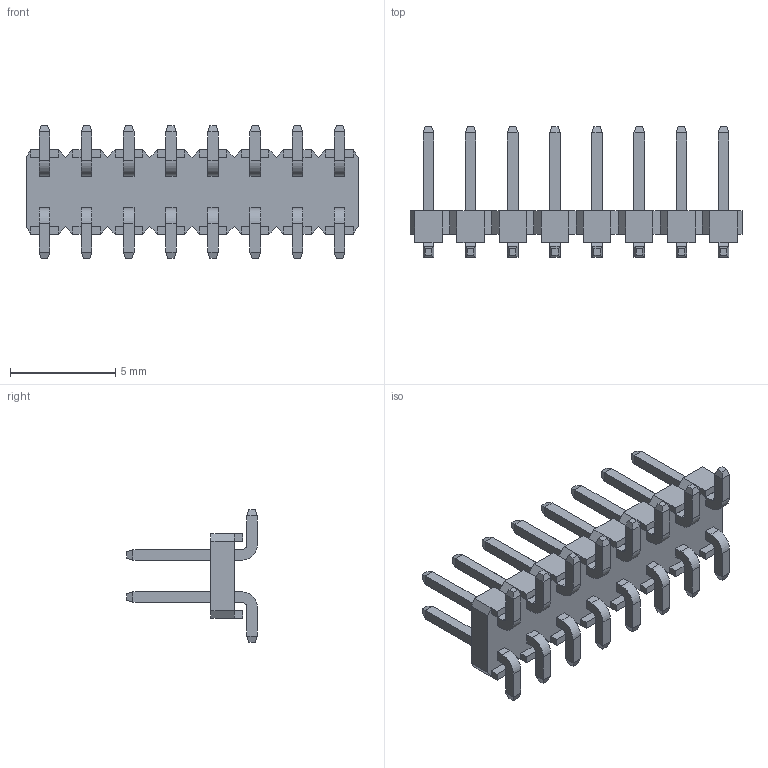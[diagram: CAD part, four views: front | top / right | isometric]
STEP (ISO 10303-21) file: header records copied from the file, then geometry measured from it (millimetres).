
FILE_DESCRIPTION (( 'STEP AP214' ), '1' );
FILE_NAME ('2115-2X08G00DN-4U.STEP', '2016-08-31T07:59:06', ( 'admin' ), ( '' ), 'SwSTEP 2.0', 'SolidWorks 2011', '' );
FILE_SCHEMA (( 'AUTOMOTIVE_DESIGN' ));
Length unit declared in the file: millimetre
Products named in the file (3): P-2115-2X08G00DP-4U_Default; H-2115-2X08G00DN-4U_Default; 2115-2X08G00DN-4U
Assembly tree (9 placements, depth 2):
  2115-2X08G00DN-4U
    P-2115-2X08G00DP-4U_Default  x8
    H-2115-2X08G00DN-4U_Default
Bounding box: 15.75 x 6.2 x 6.3 mm (x, y, z)
Volume: 96.5 mm3; surface area: 415.6 mm2
Topology: 33 solids, 33 shells, 500 faces, 1142 edges, 708 vertices
Faces by surface type: plane 468, cylinder 32
Entity records: 4977 total; most frequent: CARTESIAN_POINT 850, ORIENTED_EDGE 828, DIRECTION 774, EDGE_CURVE 414, VECTOR 406, LINE 406, VERTEX_POINT 260, AXIS2_PLACEMENT_3D 184
